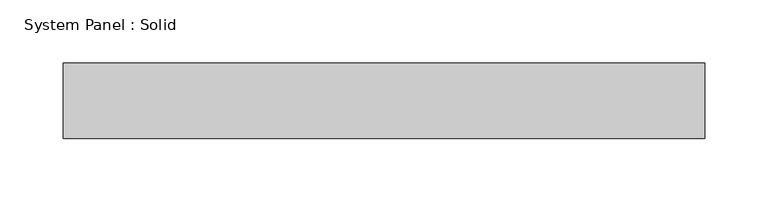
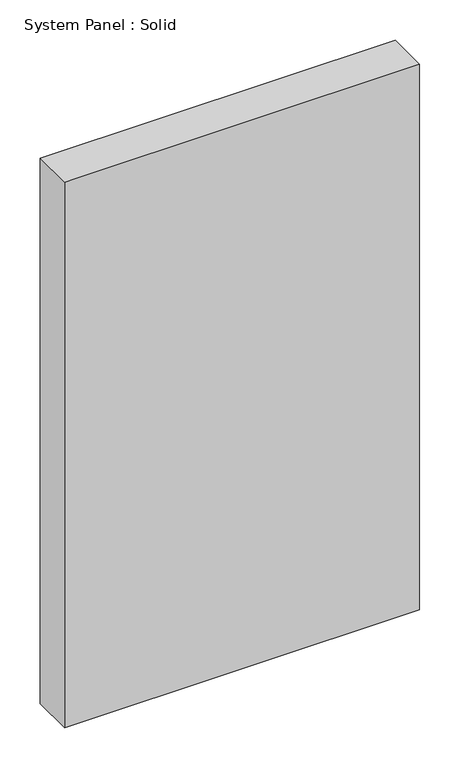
"""IFC4 building model written with IfcOpenShell, lengths in millimetres: plate geometry, System Panel : Solid."""

from ifc_helpers import new_model, si_unit, origin, origin_with_axes, place, context, project, spatial, polyline, outline, extrude, source, transform, mapped, element, save


def system_panel_solid_d5224606(model_context):
    return source(origin(), model_context, "Body", "SweptSolid", [
        extrude(outline(polyline([(254.1666666, -10.5), (-254.1666666, -10.5), (-254.1666666, 49.5), (254.1666666, 49.5), (254.1666666, -10.5)])), origin_with_axes(), (0.0, 0.0, 1.0), 825.0),
    ])


if __name__ == "__main__":
    model = new_model("IFC4")
    model_context = context("Model", 3, world=origin())
    ifc_project = project(units=[si_unit("LENGTHUNIT", "METRE", prefix="MILLI")], contexts=[model_context])
    site = spatial("IfcSite", under=ifc_project)
    building = spatial("IfcBuilding", under=site)
    placement = place(None, origin())
    system_panel_solid_shape = system_panel_solid_d5224606(model_context)
    element("IfcPlate", 1, ObjectType="System Panel : Solid", at=placement, inside=building, context=model_context, shape_type="MappedRepresentation", body=[
        mapped(system_panel_solid_shape, transform((0.0, 0.0, 0.0), x_axis=(1.0, 0.0, 0.0), y_axis=(0.0, 1.0, 0.0), z_axis=(0.0, 0.0, 1.0))),
    ])
    save(model, "model.ifc")
